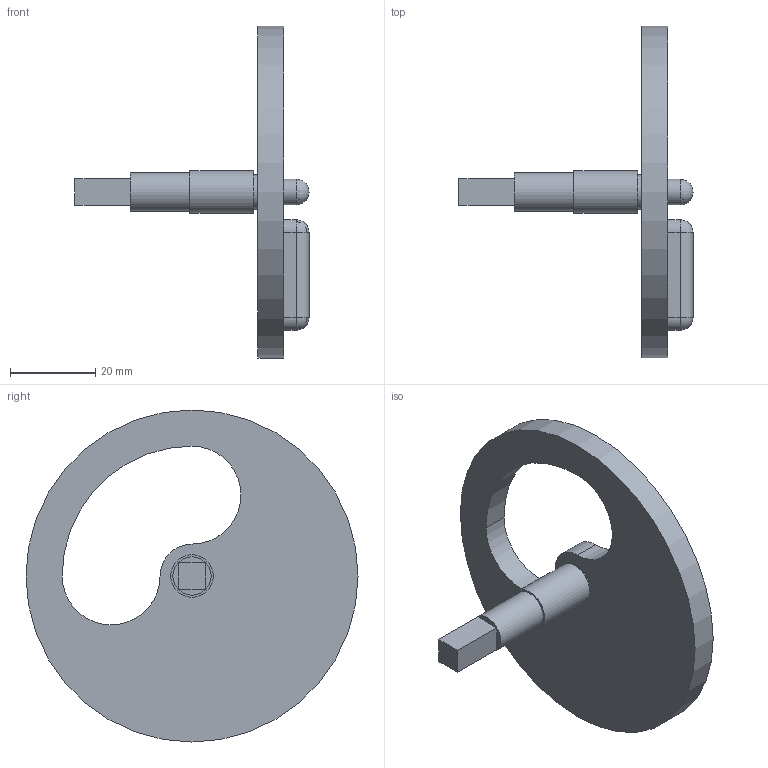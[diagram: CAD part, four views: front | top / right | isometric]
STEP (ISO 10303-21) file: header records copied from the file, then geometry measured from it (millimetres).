
FILE_DESCRIPTION((''),'2;1');
FILE_NAME('C:\Users\Hardie\Documents\Hoardings\Drawings\Locking twist lock\lock plate assembly.stp','2013-07-07T19:01:56',('Hardie'),(''),'Autodesk Inventor 2013','Autodesk Inventor 2013','');
FILE_SCHEMA(('AUTOMOTIVE_DESIGN { 1 0 10303 214 1 1 1 1 }'));
Length unit declared in the file: millimetre
Products named in the file (3): lock plate assembly (LevelofDetail2); middle pin; lock top plate
Assembly tree (2 placements, depth 2):
  lock plate assembly (LevelofDetail2)
    middle pin
    lock top plate
Bounding box: 55 x 78 x 78 mm (x, y, z)
Volume: 25600.3 mm3; surface area: 12438.9 mm2
Topology: 2 solids, 2 shells, 366 faces, 964 edges, 635 vertices
Faces by surface type: plane 222, bspline 124, cylinder 16, sphere 4
Full cylindrical faces by diameter (mm): 8 x1, 9 x3, 10 x1, 78 x1
Entity records: 11975 total; most frequent: CARTESIAN_POINT 3730, ORIENTED_EDGE 1898, DIRECTION 1227, EDGE_CURVE 949, VECTOR 669, LINE 669, VERTEX_POINT 634, EDGE_LOOP 417
